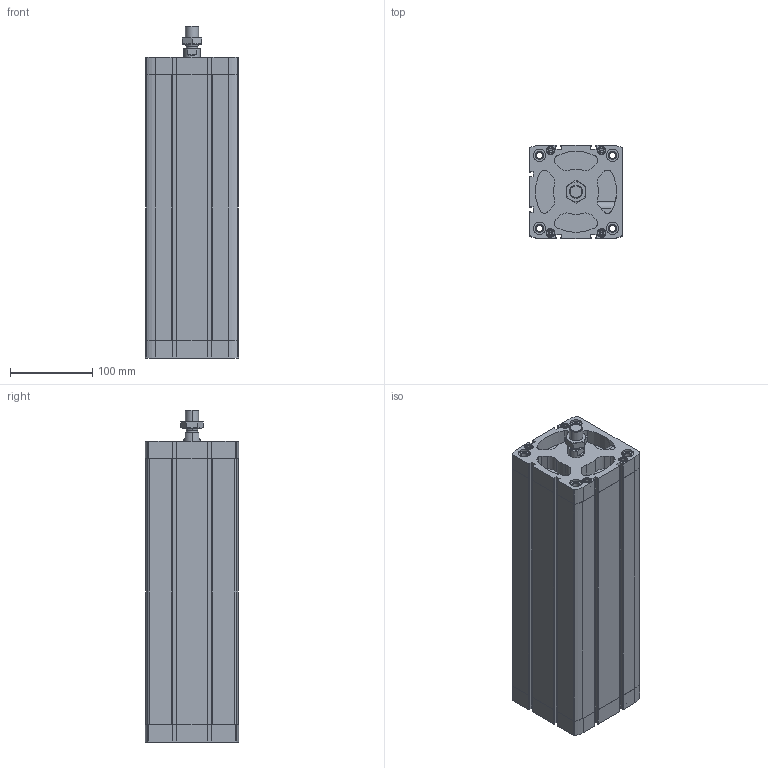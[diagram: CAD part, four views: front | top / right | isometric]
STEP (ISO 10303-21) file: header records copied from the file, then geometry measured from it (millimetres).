
FILE_DESCRIPTION (( 'STEP AP203' ), '1' );
FILE_NAME ('CCN100-300M.STEP', '2020-06-05T18:09:36', ( '' ), ( '' ), 'SwSTEP 2.0', 'SolidWorks 2019', '' );
FILE_SCHEMA (( 'CONFIG_CONTROL_DESIGN' ));
Length unit declared in the file: millimetre
Products named in the file (1): CCN100-300M
Bounding box: 113.5 x 113.5 x 404.8 mm (x, y, z)
Volume: 2114482.9 mm3; surface area: 442903.6 mm2
Topology: 3 solids, 3 shells, 648 faces, 1673 edges, 1068 vertices
Faces by surface type: plane 292, cylinder 272, cone 80, torus 4
Entity records: 21246 total; most frequent: CARTESIAN_POINT 4984, DIRECTION 3541, ORIENTED_EDGE 3314, EDGE_CURVE 1657, AXIS2_PLACEMENT_3D 1319, VERTEX_POINT 1068, LINE 903, VECTOR 903
